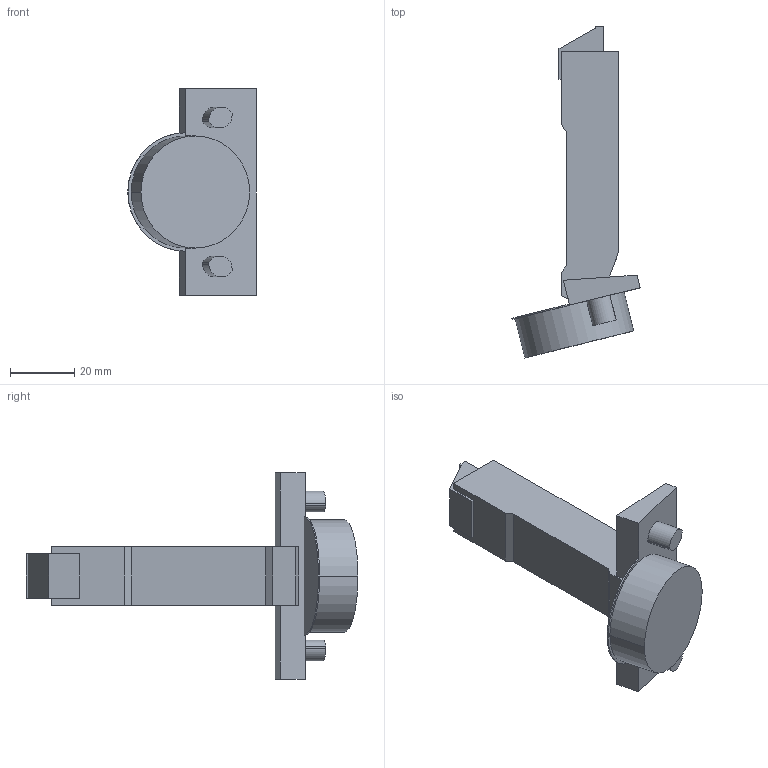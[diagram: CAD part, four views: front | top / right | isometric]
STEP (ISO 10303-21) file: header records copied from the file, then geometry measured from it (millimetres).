
FILE_DESCRIPTION (( 'STEP AP214' ), '1' );
FILE_NAME ('Scharnier TS Impresso 120°_-15° MB_BB, aufliegend - Neu -.step', '2019-09-17T09:44:32', ( '' ), ( '' ), 'SwSTEP 2.0', 'SolidWorks 2019', '' );
FILE_SCHEMA (( 'AUTOMOTIVE_DESIGN' ));
Length unit declared in the file: millimetre
Products named in the file (1): Scharnier TS Impresso 120°_-15° MB_BB, aufliegend - Neu -
Bounding box: 40.12 x 103.72 x 64.5 mm (x, y, z)
Volume: 44387.2 mm3; surface area: 12308 mm2
Topology: 1 solids, 1 shells, 50 faces, 126 edges, 84 vertices
Faces by surface type: plane 35, cylinder 15
Entity records: 1534 total; most frequent: CARTESIAN_POINT 261, DIRECTION 258, ORIENTED_EDGE 252, EDGE_CURVE 126, VECTOR 96, LINE 96, VERTEX_POINT 84, AXIS2_PLACEMENT_3D 81
